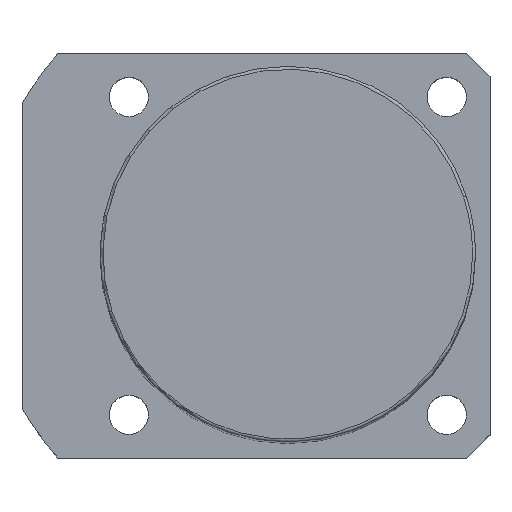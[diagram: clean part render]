
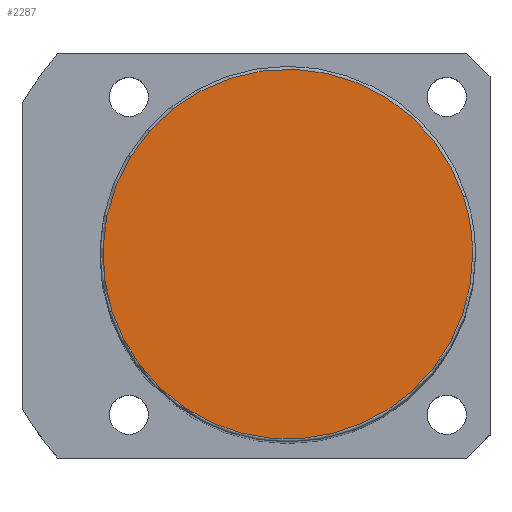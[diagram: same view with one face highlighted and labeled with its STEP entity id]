
A CAD part, top view. The second image highlights one B-rep face of the part: STEP entity #2287.
In plain terms, the highlighted planar face has unit normal (0, 0, 1).
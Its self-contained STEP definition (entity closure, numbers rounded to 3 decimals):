
#2220=CARTESIAN_POINT('',(30.434,9.889,186.0));
#2221=VERTEX_POINT('',#2220);
#2239=CARTESIAN_POINT('',(-30.434,-9.889,186.0));
#2240=VERTEX_POINT('',#2239);
#2248=CARTESIAN_POINT('',(0.0,0.0,186.0));
#2249=DIRECTION('',(0.0,0.0,1.0));
#2250=DIRECTION('',(1.0,0.0,0.0));
#2251=AXIS2_PLACEMENT_3D('',#2248,#2249,#2250);
#2252=CIRCLE('',#2251,32.0);
#2253=EDGE_CURVE('no 2135',#2221,#2240,#2252,.T.);
#2263=CARTESIAN_POINT('',(32.0,0.0,186.0));
#2264=VERTEX_POINT('',#2263);
#2265=CARTESIAN_POINT('',(0.0,0.0,186.0));
#2266=DIRECTION('',(0.0,0.0,1.0));
#2267=DIRECTION('',(1.0,0.0,0.0));
#2268=AXIS2_PLACEMENT_3D('',#2265,#2266,#2267);
#2269=CIRCLE('',#2268,32.0);
#2270=EDGE_CURVE('no 2144',#2264,#2221,#2269,.T.);
#2271=ORIENTED_EDGE('',*,*,#2270,.T.);
#2272=ORIENTED_EDGE('',*,*,#2253,.T.);
#2273=CARTESIAN_POINT('',(0.0,0.0,186.0));
#2274=DIRECTION('',(0.0,0.0,1.0));
#2275=DIRECTION('',(1.0,0.0,0.0));
#2276=AXIS2_PLACEMENT_3D('',#2273,#2274,#2275);
#2277=CIRCLE('',#2276,32.0);
#2278=EDGE_CURVE('no 2150',#2240,#2264,#2277,.T.);
#2279=ORIENTED_EDGE('',*,*,#2278,.T.);
#2280=EDGE_LOOP('',(#2271,#2272,#2279));
#2281=FACE_OUTER_BOUND('',#2280,.T.);
#2282=CARTESIAN_POINT('',(0.0,0.0,186.0));
#2283=DIRECTION('',(0.0,0.0,1.0));
#2284=DIRECTION('',(1.0,0.0,0.0));
#2285=AXIS2_PLACEMENT_3D('',#2282,#2283,#2284);
#2286=PLANE('',#2285);
#2287=ADVANCED_FACE('no 2137',(#2281),#2286,.T.);
